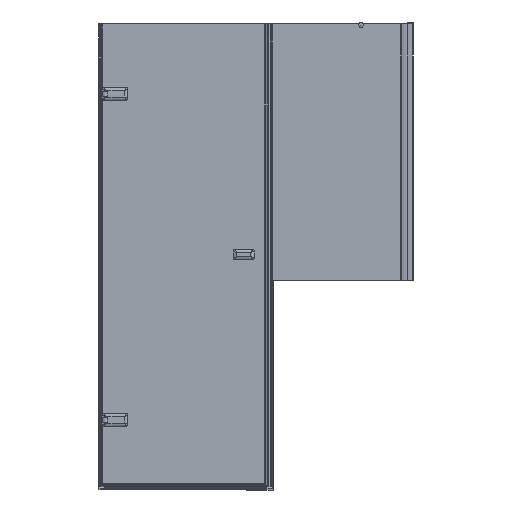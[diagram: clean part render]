
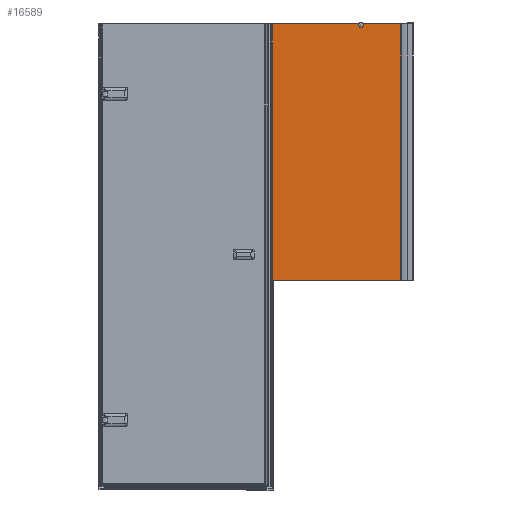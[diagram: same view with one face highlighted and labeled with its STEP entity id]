
A CAD part, front view. The second image highlights one B-rep face of the part: STEP entity #16589.
In plain terms, the highlighted planar face has unit normal (0, -1, 0).
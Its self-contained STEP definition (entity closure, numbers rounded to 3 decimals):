
#1002=LINE($,#27012,#2659);
#1197=LINE($,#27573,#2854);
#1686=LINE($,#28977,#3343);
#1714=LINE($,#29101,#3371);
#1723=LINE($,#29119,#3380);
#1727=LINE($,#29128,#3384);
#1730=LINE($,#29133,#3387);
#1744=LINE($,#29167,#3401);
#1746=LINE($,#29172,#3403);
#1757=LINE($,#29202,#3414);
#1763=LINE($,#29217,#3420);
#1764=LINE($,#29218,#3421);
#1765=LINE($,#29219,#3422);
#2659=VECTOR($,#20225,164.716);
#2854=VECTOR($,#20644,9.7);
#3343=VECTOR($,#21889,6.964);
#3371=VECTOR($,#22025,900.);
#3380=VECTOR($,#22046,900.);
#3384=VECTOR($,#22054,1100.);
#3387=VECTOR($,#22059,0.3);
#3401=VECTOR($,#22081,550.);
#3403=VECTOR($,#22087,1995.);
#3414=VECTOR($,#22120,1995.);
#3420=VECTOR($,#22144,369.459);
#3421=VECTOR($,#22145,1.);
#3422=VECTOR($,#22146,1100.);
#4772=FACE_OUTER_BOUND($,#5687,.T.);
#5687=EDGE_LOOP($,(#14097,#14098,#14099,#14100,#14101,#14102,#14103,#14104,
#14105,#14106,#14107,#14108,#14109,#14110));
#6012=CIRCLE($,#17342,10.);
#6987=VERTEX_POINT($,#26956);
#6988=VERTEX_POINT($,#26957);
#7004=VERTEX_POINT($,#27011);
#7171=VERTEX_POINT($,#27570);
#7172=VERTEX_POINT($,#27572);
#7502=VERTEX_POINT($,#28974);
#7503=VERTEX_POINT($,#28976);
#7545=VERTEX_POINT($,#29100);
#7548=VERTEX_POINT($,#29117);
#7550=VERTEX_POINT($,#29125);
#7551=VERTEX_POINT($,#29127);
#7568=VERTEX_POINT($,#29165);
#7569=VERTEX_POINT($,#29171);
#7577=VERTEX_POINT($,#29201);
#8772=EDGE_CURVE($,#6987,#6988,#6012,.T.);
#8798=EDGE_CURVE($,#7004,#6987,#1002,.T.);
#9040=EDGE_CURVE($,#7171,#7172,#1197,.T.);
#9653=EDGE_CURVE($,#7502,#7503,#1686,.T.);
#9715=EDGE_CURVE($,#7172,#7545,#1714,.T.);
#9725=EDGE_CURVE($,#7548,#7171,#1723,.T.);
#9729=EDGE_CURVE($,#7551,#7550,#1727,.T.);
#9732=EDGE_CURVE($,#7545,#7550,#1730,.T.);
#9749=EDGE_CURVE($,#7568,#7548,#1744,.T.);
#9751=EDGE_CURVE($,#7502,#7569,#1746,.T.);
#9766=EDGE_CURVE($,#7503,#7577,#1757,.T.);
#9773=EDGE_CURVE($,#6988,#7577,#1763,.T.);
#9774=EDGE_CURVE($,#7569,#7551,#1764,.T.);
#9775=EDGE_CURVE($,#7568,#7004,#1765,.T.);
#14097=ORIENTED_EDGE($,*,*,#8772,.T.);
#14098=ORIENTED_EDGE($,*,*,#9773,.T.);
#14099=ORIENTED_EDGE($,*,*,#9766,.F.);
#14100=ORIENTED_EDGE($,*,*,#9653,.F.);
#14101=ORIENTED_EDGE($,*,*,#9751,.T.);
#14102=ORIENTED_EDGE($,*,*,#9774,.T.);
#14103=ORIENTED_EDGE($,*,*,#9729,.T.);
#14104=ORIENTED_EDGE($,*,*,#9732,.F.);
#14105=ORIENTED_EDGE($,*,*,#9715,.F.);
#14106=ORIENTED_EDGE($,*,*,#9040,.F.);
#14107=ORIENTED_EDGE($,*,*,#9725,.F.);
#14108=ORIENTED_EDGE($,*,*,#9749,.F.);
#14109=ORIENTED_EDGE($,*,*,#9775,.T.);
#14110=ORIENTED_EDGE($,*,*,#8798,.T.);
#14883=PLANE($,#17939);
#16589=ADVANCED_FACE($,(#4772),#14883,.T.);
#17342=AXIS2_PLACEMENT_3D($,#26958,#20168,#20169);
#17939=AXIS2_PLACEMENT_3D($,#29216,#22142,#22143);
#20168=DIRECTION('center_axis',(0.,1.,0.));
#20169=DIRECTION('ref_axis',(-1.,0.,0.));
#20225=DIRECTION($,(-1.,0.,0.));
#20644=DIRECTION($,(-1.,0.,0.));
#21889=DIRECTION($,(1.,0.,0.));
#22025=DIRECTION($,(0.,0.,1.));
#22046=DIRECTION($,(0.,0.,-1.));
#22054=DIRECTION($,(0.,0.,-1.));
#22059=DIRECTION($,(-1.,0.,0.));
#22081=DIRECTION($,(-1.,0.,0.));
#22087=DIRECTION($,(0.,0.,1.));
#22120=DIRECTION($,(0.,0.,1.));
#22142=DIRECTION('center_axis',(0.,-1.,0.));
#22143=DIRECTION('ref_axis',(-1.,0.,0.));
#22144=DIRECTION($,(-1.,0.,0.));
#22145=DIRECTION($,(-1.,0.,0.));
#22146=DIRECTION($,(0.,0.,1.));
#26956=CARTESIAN_POINT('',(1517.969,-4.044,1485.944));
#26957=CARTESIAN_POINT('',(1500.108,-4.044,1485.944));
#26958=CARTESIAN_POINT('Origin',(1509.039,-4.044,1481.444));
#27011=CARTESIAN_POINT('',(1682.686,-4.044,1485.944));
#27012=CARTESIAN_POINT($,(1725.686,-4.044,1485.944));
#27570=CARTESIAN_POINT('',(1132.686,-4.044,-514.056));
#27572=CARTESIAN_POINT('',(1122.986,-4.044,-514.056));
#27573=CARTESIAN_POINT($,(1132.686,-4.044,-514.056));
#28974=CARTESIAN_POINT('',(1123.686,-4.044,-509.056));
#28976=CARTESIAN_POINT('',(1130.65,-4.044,-509.056));
#28977=CARTESIAN_POINT($,(1122.54,-4.044,-509.056));
#29100=CARTESIAN_POINT('',(1122.986,-4.044,385.944));
#29101=CARTESIAN_POINT($,(1122.986,-4.044,385.944));
#29117=CARTESIAN_POINT('',(1132.686,-4.044,385.944));
#29119=CARTESIAN_POINT($,(1132.686,-4.044,385.944));
#29125=CARTESIAN_POINT('',(1122.686,-4.044,385.944));
#29127=CARTESIAN_POINT('',(1122.686,-4.044,1485.944));
#29128=CARTESIAN_POINT($,(1122.686,-4.044,1485.944));
#29133=CARTESIAN_POINT($,(1725.686,-4.044,385.944));
#29165=CARTESIAN_POINT('',(1682.686,-4.044,385.944));
#29167=CARTESIAN_POINT($,(1725.686,-4.044,385.944));
#29171=CARTESIAN_POINT('',(1123.686,-4.044,1485.944));
#29172=CARTESIAN_POINT($,(1123.686,-4.044,1485.944));
#29201=CARTESIAN_POINT('',(1130.65,-4.044,1485.944));
#29202=CARTESIAN_POINT($,(1130.65,-4.044,935.944));
#29216=CARTESIAN_POINT('Origin',(1725.686,-4.044,1485.944));
#29217=CARTESIAN_POINT($,(1725.686,-4.044,1485.944));
#29218=CARTESIAN_POINT($,(1725.686,-4.044,1485.944));
#29219=CARTESIAN_POINT($,(1682.686,-4.044,1485.944));
